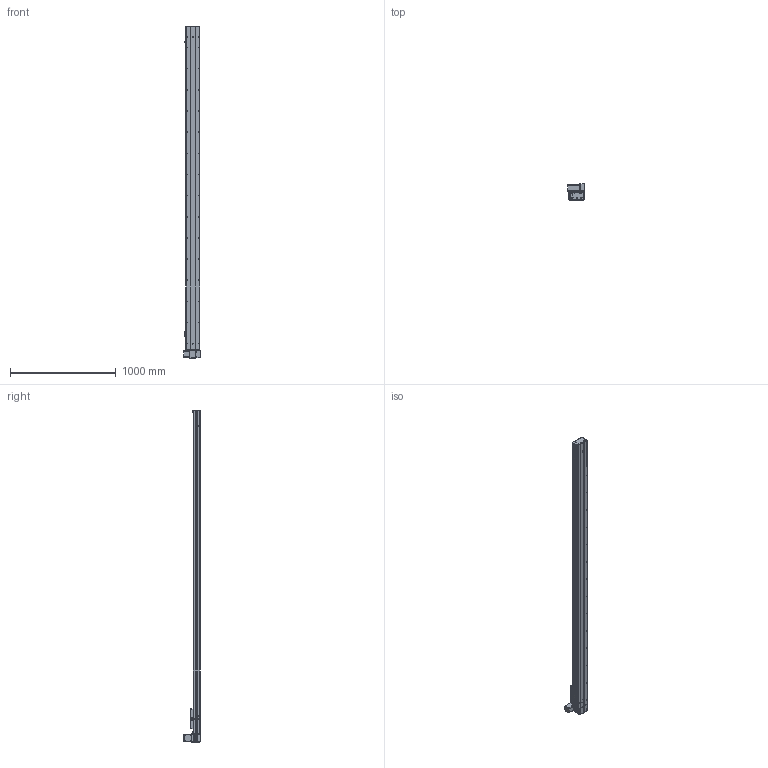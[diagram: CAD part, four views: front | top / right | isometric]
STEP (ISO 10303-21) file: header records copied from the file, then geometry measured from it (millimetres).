
FILE_DESCRIPTION (( 'STEP AP203' ), '1' );
FILE_NAME ('Y135CB-D90-S2750-UL-P400W.STEP', '2020-02-18T08:10:51', ( '微软用户' ), ( '微软中国' ), 'SwSTEP 2.0', 'SolidWorks 2017', '' );
FILE_SCHEMA (( 'CONFIG_CONTROL_DESIGN' ));
Length unit declared in the file: millimetre
Products named in the file (18): Y135C-陔俋离換覜結え-; 0B-埴倛裔啣; 5C--俋欶; 0B-源倛裔啣; C-雄赽釱--; 0B-萇儂楊擘啣; Y10B-耜蚾蟀諉啣----; san松下电机400不带刹车----; 00B-俋欶BM--; 5CB --掛极耜裔啣-; Y10B--々湍喘謫眊--666; C-詩湍揤踡え-陔; Y135CB-耜裔; Y135CB-D90-S2750-UL-P400W; 135CB--詩湍-CE; 135CB---遴掛极.-; Y100-135俋离換覜ん--; 35CB---喘謫眊楊擘啣
Assembly tree (21 placements, depth 2):
  Y135CB-D90-S2750-UL-P400W
    Y135CB-耜裔
    135CB---遴掛极.-
    35CB---喘謫眊楊擘啣
    0B-埴倛裔啣
    0B-源倛裔啣
    0B-萇儂楊擘啣
    san松下电机400不带刹车----
    5CB --掛极耜裔啣-  x2
    C-詩湍揤踡え-陔  x2
    135CB--詩湍-CE
    Y100-135俋离換覜ん--  x3
    Y135C-陔俋离換覜結え-
    5C--俋欶
    C-雄赽釱--
    Y10B-耜蚾蟀諉啣----
    00B-俋欶BM--
    Y10B--々湍喘謫眊--666
Bounding box: 157 x 158.7 x 3138 mm (x, y, z)
Volume: 8930990.4 mm3; surface area: 3540659.8 mm2
Topology: 21 solids, 21 shells, 981 faces, 2689 edges, 1782 vertices
Faces by surface type: cylinder 509, plane 456, cone 16
Entity records: 31167 total; most frequent: CARTESIAN_POINT 5208, DIRECTION 5181, ORIENTED_EDGE 4854, EDGE_CURVE 2427, AXIS2_PLACEMENT_3D 1903, VERTEX_POINT 1610, LINE 1375, VECTOR 1375
